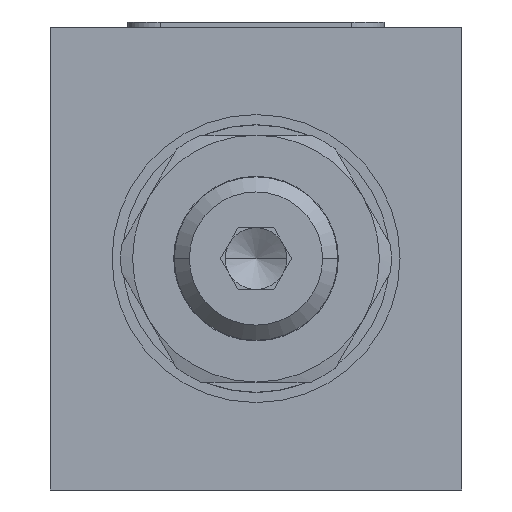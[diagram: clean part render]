
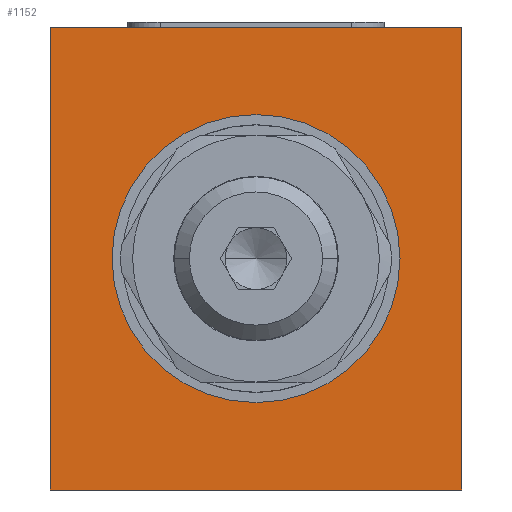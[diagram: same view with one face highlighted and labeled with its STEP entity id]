
A CAD part, left-side view. The second image highlights one B-rep face of the part: STEP entity #1152.
In plain terms, the highlighted planar face has unit normal (-1, 0, 0).
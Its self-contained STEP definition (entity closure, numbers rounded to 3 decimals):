
#52=DIRECTION('',(0.,-1.,0.));
#53=VECTOR('',#52,40.);
#54=CARTESIAN_POINT('',(-28.,40.,-22.5));
#55=LINE('',#54,#53);
#56=DIRECTION('',(0.,0.,1.));
#57=VECTOR('',#56,45.);
#58=CARTESIAN_POINT('',(-28.,0.,-22.5));
#59=LINE('',#58,#57);
#150=DIRECTION('',(0.,0.,1.));
#151=VECTOR('',#150,45.);
#152=CARTESIAN_POINT('',(-28.,40.,-22.5));
#153=LINE('',#152,#151);
#154=CARTESIAN_POINT('',(-28.,20.,0.));
#155=DIRECTION('',(1.,0.,0.));
#156=DIRECTION('',(0.,-1.,0.));
#157=AXIS2_PLACEMENT_3D('',#154,#155,#156);
#159=CARTESIAN_POINT('',(-28.,20.,0.));
#160=DIRECTION('',(1.,0.,0.));
#161=DIRECTION('',(0.,1.,0.));
#162=AXIS2_PLACEMENT_3D('',#159,#160,#161);
#266=DIRECTION('',(0.,-1.,0.));
#267=VECTOR('',#266,40.);
#268=CARTESIAN_POINT('',(-28.,40.,22.5));
#269=LINE('',#268,#267);
#816=CARTESIAN_POINT('',(-28.,0.,-22.5));
#818=VERTEX_POINT('',#816);
#822=CARTESIAN_POINT('',(-28.,40.,-22.5));
#823=VERTEX_POINT('',#822);
#824=CARTESIAN_POINT('',(-28.,0.,22.5));
#826=VERTEX_POINT('',#824);
#830=CARTESIAN_POINT('',(-28.,40.,22.5));
#831=VERTEX_POINT('',#830);
#958=CARTESIAN_POINT('',(-28.,6.,0.));
#959=VERTEX_POINT('',#958);
#960=CARTESIAN_POINT('',(-28.,34.,0.));
#961=VERTEX_POINT('',#960);
#1133=CARTESIAN_POINT('',(-28.,40.,-22.5));
#1134=DIRECTION('',(-1.,0.,0.));
#1135=DIRECTION('',(0.,-1.,0.));
#1136=AXIS2_PLACEMENT_3D('',#1133,#1134,#1135);
#1137=PLANE('',#1136);
#1138=ORIENTED_EDGE('',*,*,#1045,.F.);
#1140=ORIENTED_EDGE('',*,*,#1139,.T.);
#1142=ORIENTED_EDGE('',*,*,#1141,.T.);
#1143=ORIENTED_EDGE('',*,*,#1063,.F.);
#1144=EDGE_LOOP('',(#1138,#1140,#1142,#1143));
#1145=FACE_OUTER_BOUND('',#1144,.F.);
#1147=ORIENTED_EDGE('',*,*,#1146,.F.);
#1149=ORIENTED_EDGE('',*,*,#1148,.F.);
#1150=EDGE_LOOP('',(#1147,#1149));
#1151=FACE_BOUND('',#1150,.F.);
#158=CIRCLE('',#157,14.);
#163=CIRCLE('',#162,14.);
#1045=EDGE_CURVE('',#823,#818,#55,.T.);
#1063=EDGE_CURVE('',#818,#826,#59,.T.);
#1139=EDGE_CURVE('',#823,#831,#153,.T.);
#1141=EDGE_CURVE('',#831,#826,#269,.T.);
#1146=EDGE_CURVE('',#959,#961,#158,.T.);
#1148=EDGE_CURVE('',#961,#959,#163,.T.);
#1152=ADVANCED_FACE('',(#1145,#1151),#1137,.T.);
